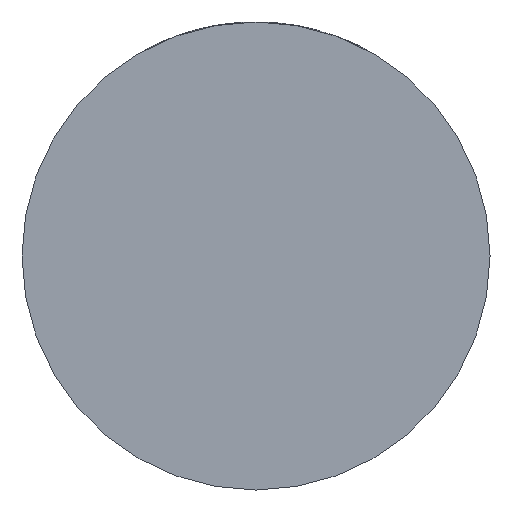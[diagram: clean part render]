
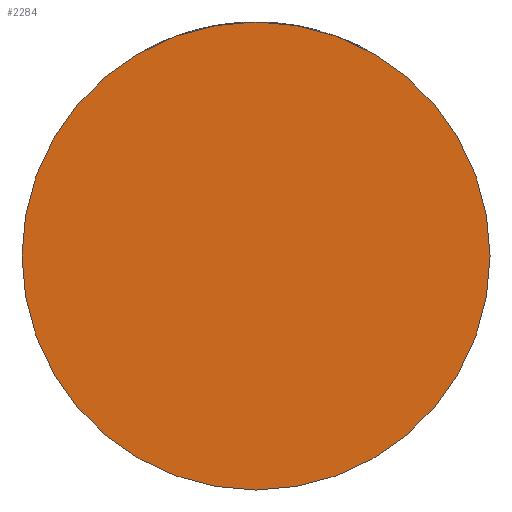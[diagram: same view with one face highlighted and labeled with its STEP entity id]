
A CAD part, front view. The second image highlights one B-rep face of the part: STEP entity #2284.
In plain terms, the highlighted planar face has unit normal (0, -1, 0).
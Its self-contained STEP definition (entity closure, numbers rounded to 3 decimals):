
#122 = EDGE_CURVE ( 'NONE', #3249, #3470, #3836, .T. ) ;
#568 = DIRECTION ( 'NONE',  ( 1., 0., 0. ) ) ;
#703 = DIRECTION ( 'NONE',  ( 1., 0., 0. ) ) ;
#926 = FACE_OUTER_BOUND ( 'NONE', #1492, .T. ) ;
#1017 = DIRECTION ( 'NONE',  ( 0., -1., 0. ) ) ;
#1215 = CARTESIAN_POINT ( 'NONE',  ( -39., -36., 0. ) ) ;
#1373 = CIRCLE ( 'NONE', #3030, 39. ) ;
#1492 = EDGE_LOOP ( 'NONE', ( #2443, #2107 ) ) ;
#1535 = AXIS2_PLACEMENT_3D ( 'NONE', #2019, #3659, #568 ) ;
#1615 = EDGE_CURVE ( 'NONE', #3470, #3249, #1373, .T. ) ;
#2019 = CARTESIAN_POINT ( 'NONE',  ( 0., -36., 0. ) ) ;
#2107 = ORIENTED_EDGE ( 'NONE', *, *, #122, .T. ) ;
#2142 = CARTESIAN_POINT ( 'NONE',  ( 0., -36., 0. ) ) ;
#2284 = ADVANCED_FACE ( 'NONE', ( #926 ), #3744, .T. ) ;
#2443 = ORIENTED_EDGE ( 'NONE', *, *, #1615, .T. ) ;
#2680 = AXIS2_PLACEMENT_3D ( 'NONE', #4045, #1017, #2748 ) ;
#2748 = DIRECTION ( 'NONE',  ( 1., 0., 0. ) ) ;
#3030 = AXIS2_PLACEMENT_3D ( 'NONE', #2142, #3522, #703 ) ;
#3249 = VERTEX_POINT ( 'NONE', #4412 ) ;
#3470 = VERTEX_POINT ( 'NONE', #1215 ) ;
#3522 = DIRECTION ( 'NONE',  ( 0., -1., 0. ) ) ;
#3659 = DIRECTION ( 'NONE',  ( 0., -1., 0. ) ) ;
#3744 = PLANE ( 'NONE',  #1535 ) ;
#3836 = CIRCLE ( 'NONE', #2680, 39. ) ;
#4045 = CARTESIAN_POINT ( 'NONE',  ( 0., -36., 0. ) ) ;
#4412 = CARTESIAN_POINT ( 'NONE',  ( 39., -36., 0. ) ) ;
